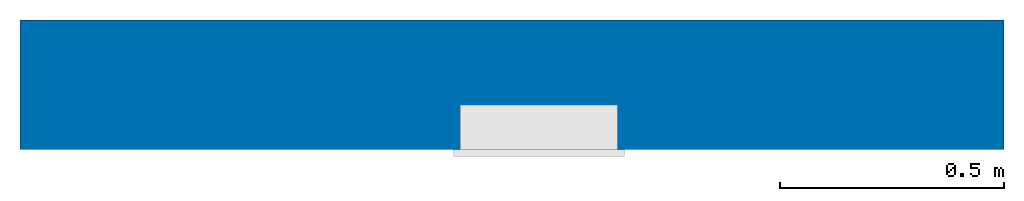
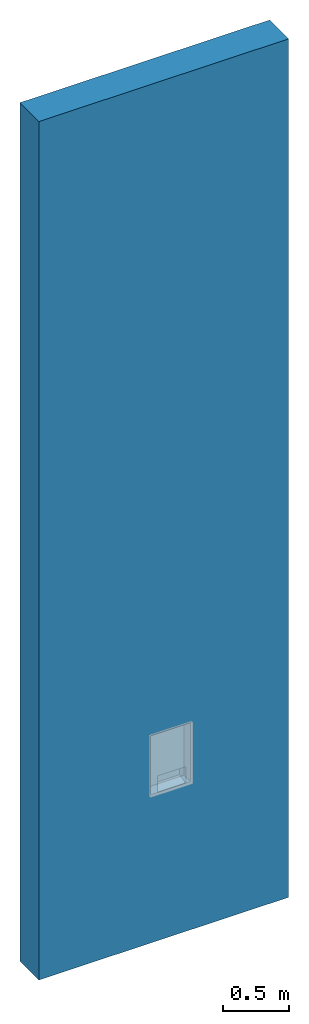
# One storey, part 1 of 2: 1 wall, 1 opening.
"""IFC2X3 building model written with IfcOpenShell, lengths in millimetres."""

from ifc_helpers import new_model, entity, si_unit, converted_unit, derived_unit, direction, frame, frame_2d, origin, place, context, subcontext, project, spatial, polyline, circle_curve, parameter, trimmed, segment, composite_curve, rectangle, outline, extrude, material, layer, layer_set, layer_usage, type_object, element, save


model = new_model("IFC2X3")

# Units and contexts
model_context = context("Model", 3, precision=0.01, world=origin(), true_north=direction((6.12303176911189e-17, 1.0)))
context_of_model = context(None, 3, precision=0.01, world=origin(), true_north=direction((6.12303176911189e-17, 1.0)))
body_context = subcontext(model_context, "Body", "Model", "MODEL_VIEW")
ifc_project = project(units=[si_unit("LENGTHUNIT", "METRE", prefix="MILLI"), si_unit("AREAUNIT", "SQUARE_METRE"), si_unit("VOLUMEUNIT", "CUBIC_METRE"), converted_unit("PLANEANGLEUNIT", "DEGREE", entity("IfcRatioMeasure", 0.0174532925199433), si_unit("PLANEANGLEUNIT", "RADIAN"), dimensions=[0, 0, 0, 0, 0, 0, 0]), si_unit("MASSUNIT", "GRAM", prefix="KILO"), si_unit("TIMEUNIT", "SECOND"), si_unit("FREQUENCYUNIT", "HERTZ"), si_unit("THERMODYNAMICTEMPERATUREUNIT", "DEGREE_CELSIUS"), derived_unit("THERMALTRANSMITTANCEUNIT", [(si_unit("MASSUNIT", "GRAM", prefix="KILO"), 1), (si_unit("THERMODYNAMICTEMPERATUREUNIT", "KELVIN"), -1), (si_unit("TIMEUNIT", "SECOND"), -3)]), derived_unit("VOLUMETRICFLOWRATEUNIT", [(si_unit("LENGTHUNIT", "METRE"), 3), (si_unit("TIMEUNIT", "SECOND"), -1)]), si_unit("ELECTRICCURRENTUNIT", "AMPERE"), si_unit("ELECTRICVOLTAGEUNIT", "VOLT"), si_unit("POWERUNIT", "WATT"), si_unit("FORCEUNIT", "NEWTON", prefix="KILO"), si_unit("ILLUMINANCEUNIT", "LUX"), si_unit("LUMINOUSFLUXUNIT", "LUMEN"), si_unit("LUMINOUSINTENSITYUNIT", "CANDELA"), si_unit("PRESSUREUNIT", "PASCAL")], contexts=[model_context, context_of_model])

# Site, building, storey
site_placement = place(None, origin())
site = spatial("IfcSite", under=ifc_project, at=site_placement, Name="Default", CompositionType="ELEMENT")
building_placement = place(site_placement, origin())
building = spatial("IfcBuilding", under=site, at=building_placement, CompositionType="ELEMENT")
storey_placement = place(building_placement, origin())
storey = spatial("IfcBuildingStorey", under=building, at=storey_placement, Name="Level 0", CompositionType="ELEMENT", Elevation=0.0)

# Wall, opening
ifc_material_1 = material(Name="Brick, Common")
ifc_layer_1 = layer(ifc_material_1, 102.5)
ifc_material_2 = material(Name="Fiberglass Batt")
ifc_layer_2 = layer(ifc_material_2, 75.0)
ifc_material_3 = material(Name="Concrete Masonry Units _Low Density")
ifc_layer_3 = layer(ifc_material_3, 100.0)
ifc_material_4 = material(Name="Plaster")
ifc_layer_4 = layer(ifc_material_4, 12.5)
ifc_layer_set = layer_set([ifc_layer_1, ifc_layer_2, ifc_layer_3, ifc_layer_4], Name="Basic Wall:Wall-Ext_102Bwk-75Ins-100LBlk-12P")
ifc_layer_usage = layer_usage(ifc_layer_set, "AXIS2", "NEGATIVE", 145.0)
wall_type = type_object("IfcWallType", Name="Basic Wall:Wall-Ext_102Bwk-75Ins-100LBlk-12P", PredefinedType="STANDARD", material=ifc_layer_set)
wall_placement = place(storey_placement, frame((-5334.05975115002, -14.8227788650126, 0.0)))
wall = element("IfcWallStandardCase", 1, at=wall_placement, inside=storey, type_object=wall_type, material=ifc_layer_usage, Name="Basic Wall:Wall-Ext_102Bwk-75Ins-100LBlk-12P", ObjectType="Basic Wall:Wall-Ext_102Bwk-75Ins-100LBlk-12P", context=body_context, shape_type="SweptSolid", body=[
    extrude(rectangle(XDim=2200.0, YDim=290.0, at=frame_2d((1100.0, 0.0), x_axis=(-1.0, 0.0))), origin(), (0.0, 0.0, 1.0), 8000.0),
])
opening_placement = place(wall_placement, frame((982.404727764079, -160.0, 1379.28575156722)))
element("IfcOpeningElement", 2, at=opening_placement, cuts=wall, Name="Basic Wall:Wall-Ext_102Bwk-75Ins-100LBlk-12P", ObjectType="Recess", context=body_context, shape_type="SweptSolid", body=[
    extrude(outline(composite_curve([segment(trimmed(circle_curve(frame_2d((166.0, -264.499999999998), x_axis=(1.0, 0.0)), 10.0), [parameter(270.0)], [parameter(0.0)], True, "PARAMETER"), True, "CONTINUOUS"), segment(polyline([(176.0, -264.499999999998), (176.0, 264.500000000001)]), True, "CONTINUOUS"), segment(trimmed(circle_curve(frame_2d((166.0, 264.500000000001), x_axis=(1.0, 0.0)), 10.0), [parameter(2.03555499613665e-13)], [parameter(89.9999999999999)], True, "PARAMETER"), True, "CONTINUOUS"), segment(polyline([(166.0, 274.500000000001), (-166.0, 274.499999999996)]), True, "CONTINUOUS"), segment(trimmed(circle_curve(frame_2d((-166.0, 264.499999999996), x_axis=(1.0, 0.0)), 10.0), [parameter(90.0000000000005)], [parameter(180.0)], True, "PARAMETER"), True, "CONTINUOUS"), segment(polyline([(-176.0, 264.499999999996), (-176.0, -264.499999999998)]), True, "CONTINUOUS"), segment(trimmed(circle_curve(frame_2d((-166.0, -264.499999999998), x_axis=(1.0, 0.0)), 10.0), [parameter(180.000000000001)], [parameter(270.0)], True, "PARAMETER"), True, "CONTINUOUS"), segment(polyline([(-166.0, -274.499999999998), (166.0, -274.499999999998)]), True, "CONTINUOUS")], self_intersect=False)), frame((177.595272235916, 0.0, 276.095272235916), z_axis=(0.0, 1.0, 0.0), x_axis=(1.0, 0.0, 0.0)), (0.0, 0.0, 1.0), 114.999999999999),
])

save(model, "model.ifc")
